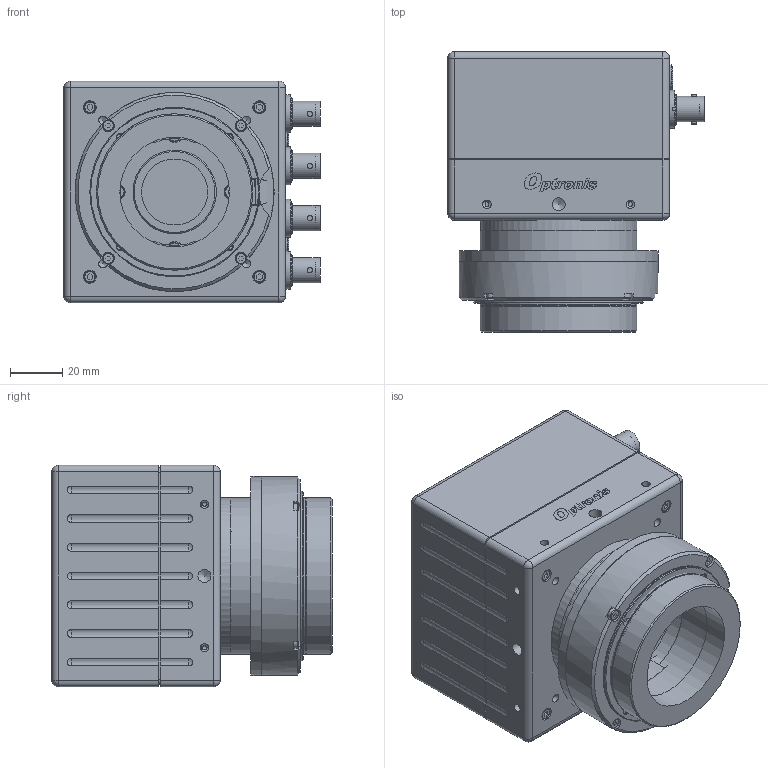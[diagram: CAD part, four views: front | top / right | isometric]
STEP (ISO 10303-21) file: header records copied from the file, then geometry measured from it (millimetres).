
FILE_DESCRIPTION(/* description */ (''),/* implementation_level */ '2;1');
FILE_NAME(/* name */ 'C:\Optronis\Inv\Modelle 3D\1880-3D\CamPerform CP80.stp',/* time_stamp */ '2015-03-11T08:03:39+01:00',/* author */ ('anu'),/* organization */ (''),/* preprocessor_version */ 'ST-DEVELOPER v15.6',/* originating_system */ 'Autodesk Inventor 2015',/* authorisation */ '');
FILE_SCHEMA (('CONFIG_CONTROL_DESIGN'));
Products named in the file (8): CP80-Case; C-Mount; Nikon F-Mount; Nikon FG-Mount; M42-Mount; T-Mount; Canon EF_EFS-Mount; CamPerform CP80
Assembly tree (7 placements, depth 2):
  CamPerform CP80
    CP80-Case
    C-Mount
    Nikon F-Mount
    Nikon FG-Mount
    M42-Mount
    T-Mount
    Canon EF_EFS-Mount
Bounding box: 98.32 x 107.55 x 85.02 mm (x, y, z)
Surface area: 196556.5 mm2 (no closed solid volume)
Topology: 0 solids, 73 shells, 1590 faces, 3656 edges, 2381 vertices
Faces by surface type: plane 899, cylinder 357, bspline 169, cone 97, sphere 36, torus 32
Full cylindrical faces by diameter (mm): 1.2 x4, 1.6 x7, 2 x24, 2.013 x4, 2.5 x4, 2.7 x4, 2.8 x4, 3 x26, 3.2 x8, 3.242 x12, 4.4 x4, 4.5 x4, 4.978 x4, 5 x4, 5.3 x2, 5.5 x24, 6 x4, 9 x4, 9.7 x4, 10 x2, 12.7 x4, 14.6 x4, 25.4 x1, 32 x2, 42 x2, 44 x2, 47.1 x2, 47.7 x1, 47.8 x1, 48 x1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
Entity records: 50868 total; most frequent: CARTESIAN_POINT 14914, DIRECTION 6687, ORIENTED_EDGE 6510, EDGE_CURVE 3254, AXIS2_PLACEMENT_3D 2363, VERTEX_POINT 2319, EDGE_LOOP 2177, LINE 1961
